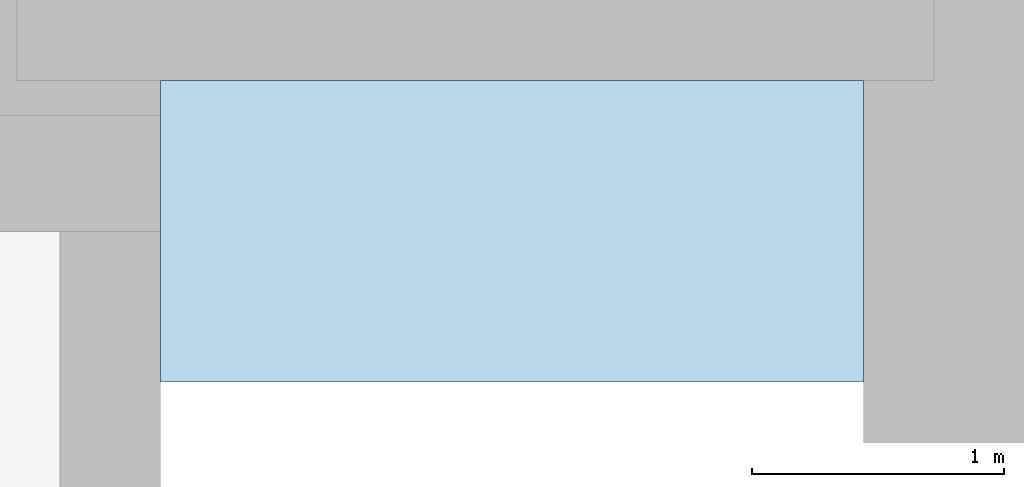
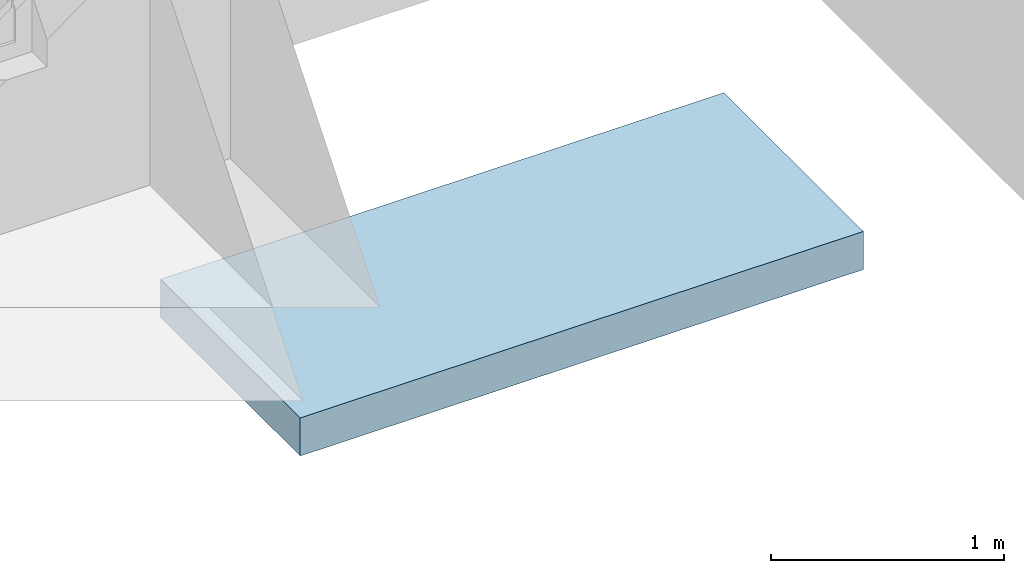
# One storey, part 28 of 66: 1 slab.
"""IFC2X3 building model written with IfcOpenShell, lengths in millimetres."""

from ifc_helpers import new_model, entity, si_unit, converted_unit, derived_unit, direction, frame, frame_2d, origin, place, context, subcontext, project, spatial, rectangle, extrude, material, layer, layer_set, layer_usage, element, save


model = new_model("IFC2X3")

# Units and contexts
model_context = context("Model", 3, precision=0.01, world=origin(), true_north=direction((6.12303176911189e-17, 1.0)))
body_context = subcontext(model_context, "Body", "Model", "MODEL_VIEW")
ifc_project = project(units=[si_unit("LENGTHUNIT", "METRE", prefix="MILLI"), si_unit("AREAUNIT", "SQUARE_METRE"), si_unit("VOLUMEUNIT", "CUBIC_METRE"), converted_unit("PLANEANGLEUNIT", "DEGREE", entity("IfcRatioMeasure", 0.0174532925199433), si_unit("PLANEANGLEUNIT", "RADIAN"), dimensions=[0, 0, 0, 0, 0, 0, 0]), si_unit("MASSUNIT", "GRAM", prefix="KILO"), derived_unit("MASSDENSITYUNIT", [(si_unit("MASSUNIT", "GRAM", prefix="KILO"), 1), (si_unit("LENGTHUNIT", "METRE"), -3)]), si_unit("TIMEUNIT", "SECOND"), si_unit("FREQUENCYUNIT", "HERTZ"), si_unit("THERMODYNAMICTEMPERATUREUNIT", "DEGREE_CELSIUS"), derived_unit("THERMALTRANSMITTANCEUNIT", [(si_unit("MASSUNIT", "GRAM", prefix="KILO"), 1), (si_unit("THERMODYNAMICTEMPERATUREUNIT", "KELVIN"), -1), (si_unit("TIMEUNIT", "SECOND"), -3)]), derived_unit("VOLUMETRICFLOWRATEUNIT", [(si_unit("LENGTHUNIT", "METRE"), 3), (si_unit("TIMEUNIT", "SECOND"), -1)]), si_unit("ELECTRICCURRENTUNIT", "AMPERE"), si_unit("ELECTRICVOLTAGEUNIT", "VOLT"), si_unit("POWERUNIT", "WATT"), si_unit("FORCEUNIT", "NEWTON", prefix="KILO"), si_unit("ILLUMINANCEUNIT", "LUX"), si_unit("LUMINOUSFLUXUNIT", "LUMEN"), si_unit("LUMINOUSINTENSITYUNIT", "CANDELA"), derived_unit("USERDEFINED", [(si_unit("MASSUNIT", "GRAM", prefix="KILO"), -1), (si_unit("LENGTHUNIT", "METRE"), -2), (si_unit("TIMEUNIT", "SECOND"), 3), (si_unit("LUMINOUSFLUXUNIT", "LUMEN"), 1)]), derived_unit("LINEARVELOCITYUNIT", [(si_unit("LENGTHUNIT", "METRE"), 1), (si_unit("TIMEUNIT", "SECOND"), -1)]), si_unit("PRESSUREUNIT", "PASCAL"), derived_unit("USERDEFINED", [(si_unit("LENGTHUNIT", "METRE"), -2), (si_unit("MASSUNIT", "GRAM", prefix="KILO"), 1), (si_unit("TIMEUNIT", "SECOND"), -2)])], contexts=[model_context])

# Site, building, storey
site_placement = place(None, frame((-151.875543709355, 2715.0, 0.0)))
site = spatial("IfcSite", under=ifc_project, at=site_placement, Name="Surface", CompositionType="ELEMENT")
building_placement = place(site_placement, origin())
building = spatial("IfcBuilding", under=site, at=building_placement, CompositionType="ELEMENT")
storey_placement = place(building_placement, frame((0.0, 0.0, 3350.0)))
storey = spatial("IfcBuildingStorey", under=building, at=storey_placement, Name="2 korrus", CompositionType="ELEMENT", Elevation=3350.00000000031)

# Slab
ifc_material = material(Name="Betoon paneel")
ifc_layer = layer(ifc_material, 200.0)
ifc_layer_set = layer_set([ifc_layer], Name="Floor:Uus trepimade")
ifc_layer_usage = layer_usage(ifc_layer_set, "AXIS3", "POSITIVE", 0.0)
slab_placement = place(storey_placement, origin())
element("IfcSlab", 1, at=slab_placement, inside=storey, material=ifc_layer_usage, Name="Floor:Uus trepimade", ObjectType="Floor:Uus trepimade", PredefinedType="FLOOR", context=body_context, shape_type="SweptSolid", body=[
    extrude(rectangle(XDim=1200.0, YDim=2794.00000000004, at=frame_2d((0.0, 2.1600499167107e-12), x_axis=(1.0, 0.0))), frame((33769.6162682, 12150.0, -996.79859876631), z_axis=(0.0, 0.0, -1.0), x_axis=(0.0, 1.0, 0.0)), (0.0, 0.0, 1.0), 200.0),
])

save(model, "model.ifc")
